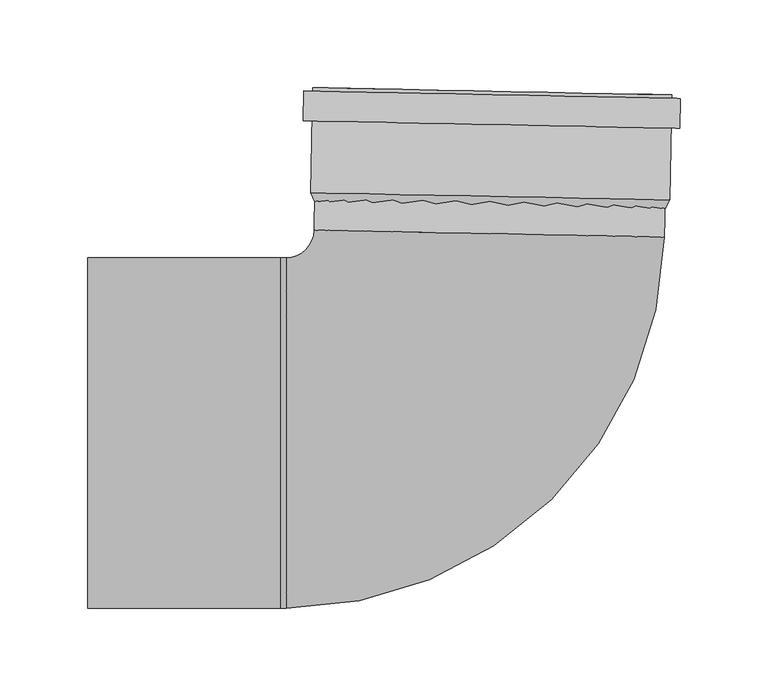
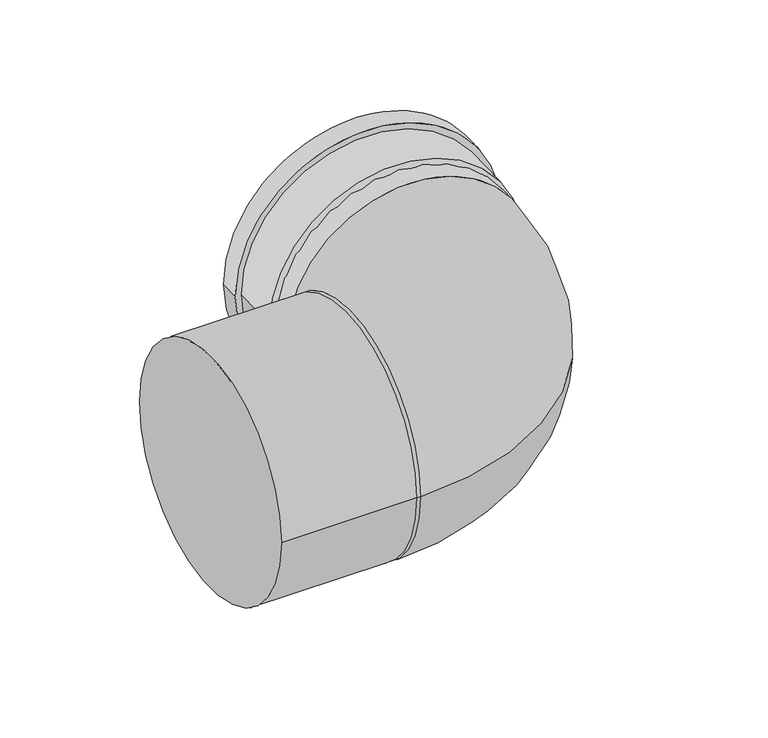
"""IFC4 building model written with IfcOpenShell, lengths in millimetres: duct fitting geometry, RSFen_DUF_UN_Twinline Bend_M&G : ø130 - 150 - 200."""

import ifcopenshell
import ifcopenshell.guid

model = None  # the IFC model being written
_history = None  # IfcOwnerHistory: only IFC2X3 demands one
_inside = {}  # id of a spatial element -> (the spatial element, [elements in it])
_under = {}  # id of a project, library or spatial element -> (it, [spatial elements below it])
_declared = {}  # id of a project -> (the project, [libraries it declares])
_typed = {}  # id of a type object -> (the type object, [elements of that type])
_made_of = {}  # id of a material, layer set ... -> (it, [elements and type objects made of it])


def new_model(schema):
    """Start an empty IFC model of exactly this schema.

    Asked for "IFC4X3", IfcOpenShell would pick the latest addendum, in which some entities
    have other attributes; the version numbers below select the first issue.
    IFC2X3 requires an IfcOwnerHistory on every rooted entity: one is made here for all.
    """
    global model, _history
    if schema == "IFC4X3":
        model = ifcopenshell.file(schema_version=(4, 3, 0, 0))
    else:
        model = ifcopenshell.file(schema=schema)
    _inside.clear()
    _under.clear()
    _declared.clear()
    _typed.clear()
    _made_of.clear()
    _history = None
    if model.schema == "IFC2X3":
        org = make("IfcOrganization", Name="unknown")
        user = make(
            "IfcPersonAndOrganization",
            ThePerson=make("IfcPerson", FamilyName="unknown"),
            TheOrganization=org,
        )
        app = make(
            "IfcApplication",
            ApplicationDeveloper=org,
            Version="unknown",
            ApplicationFullName="unknown",
            ApplicationIdentifier="unknown",
        )
        _history = make(
            "IfcOwnerHistory",
            OwningUser=user,
            OwningApplication=app,
            ChangeAction="ADDED",
            CreationDate=0,
        )
    return model


def make(cls, **values):
    """One entity of the class cls with the attributes given. An attribute that is None is left unset."""
    return model.create_entity(
        cls, **{name: value for name, value in values.items() if value is not None}
    )


def rooted(cls, **values):
    """An entity with a GlobalId (a new one), such as an element, a storey or a relation."""
    return make(cls, GlobalId=ifcopenshell.guid.new(), OwnerHistory=_history, **values)


def si_unit(unit_type, name, prefix=None):
    """IfcSIUnit, for example si_unit("LENGTHUNIT", "METRE", prefix="MILLI")."""
    return make("IfcSIUnit", UnitType=unit_type, Prefix=prefix, Name=name)


def assignment(units):
    """IfcUnitAssignment: the units of a project."""
    return None if units is None else make("IfcUnitAssignment", Units=units)


def point(xyz):
    """IfcCartesianPoint."""
    return None if xyz is None else make("IfcCartesianPoint", Coordinates=xyz)


def direction(xyz):
    """IfcDirection."""
    return None if xyz is None else make("IfcDirection", DirectionRatios=xyz)


def frame(location, z_axis=None, x_axis=None):
    """IfcAxis2Placement3D, a coordinate frame: its origin and axes. An axis left out is left unset."""
    return make(
        "IfcAxis2Placement3D",
        Location=point(location),
        Axis=direction(z_axis),
        RefDirection=direction(x_axis),
    )


def frame_2d(location, x_axis=None):
    """IfcAxis2Placement2D, a coordinate frame in the plane: its origin and x axis."""
    return make(
        "IfcAxis2Placement2D", Location=point(location), RefDirection=direction(x_axis)
    )


def origin():
    """The frame at (0, 0, 0) with its axes left unset."""
    return frame((0.0, 0.0, 0.0))


def origin_2d():
    """The frame at (0, 0) in the plane with its x axis left unset."""
    return frame_2d((0.0, 0.0))


def place(relative_to, where):
    """IfcLocalPlacement: puts the frame where relative to a parent placement (None: the world)."""
    return make(
        "IfcLocalPlacement", PlacementRelTo=relative_to, RelativePlacement=where
    )


def context(
    kind, dimensions, precision=None, world=None, true_north=None, identifier=None
):
    """IfcGeometricRepresentationContext, for example the 3D "Model" context."""
    return make(
        "IfcGeometricRepresentationContext",
        ContextIdentifier=identifier,
        ContextType=kind,
        CoordinateSpaceDimension=dimensions,
        Precision=precision,
        WorldCoordinateSystem=world,
        TrueNorth=true_north,
    )


def project(units=None, contexts=None):
    """IfcProject with its units and contexts."""
    return rooted(
        "IfcProject",
        Name="project",
        RepresentationContexts=contexts,
        UnitsInContext=assignment(units),
    )


def spatial(cls, under=None, at=None, **own):
    """A site, building, storey or space (cls), placed at a placement, below another one or the project."""
    s = rooted(cls, ObjectPlacement=at, **own)
    if under is not None:
        _under.setdefault(under.id(), (under, []))[1].append(s)
    return s


def polyline(points):
    """IfcPolyline through the points."""
    return make("IfcPolyline", Points=[point(p) for p in points])


def circle_curve(where, radius):
    """IfcCircle in the frame where."""
    return make("IfcCircle", Position=where, Radius=radius)


def ellipse_curve(where, semi_axis1, semi_axis2):
    """IfcEllipse in the frame where."""
    return make(
        "IfcEllipse", Position=where, SemiAxis1=semi_axis1, SemiAxis2=semi_axis2
    )


def trimmed(basis, trim1, trim2, sense, master):
    """IfcTrimmedCurve: the piece of a basis curve between two trims."""
    return make(
        "IfcTrimmedCurve",
        BasisCurve=basis,
        Trim1=trim1,
        Trim2=trim2,
        SenseAgreement=sense,
        MasterRepresentation=master,
    )


def segment(curve, same_sense, transition):
    """IfcCompositeCurveSegment."""
    return make(
        "IfcCompositeCurveSegment",
        Transition=transition,
        SameSense=same_sense,
        ParentCurve=curve,
    )


def composite_curve(segments, self_intersect=None):
    """IfcCompositeCurve: segments joined end to end."""
    return make("IfcCompositeCurve", Segments=segments, SelfIntersect=self_intersect)


def outline(outer, holes=None, kind="AREA"):
    """IfcArbitraryClosedProfileDef: a profile drawn as a closed curve; with holes, ...WithVoids."""
    if holes is None:
        return make("IfcArbitraryClosedProfileDef", ProfileType=kind, OuterCurve=outer)
    return make(
        "IfcArbitraryProfileDefWithVoids",
        ProfileType=kind,
        OuterCurve=outer,
        InnerCurves=holes,
    )


def extrude(swept, where, along, depth):
    """IfcExtrudedAreaSolid: the profile swept, set in the frame where, extruded along a direction by depth."""
    return make(
        "IfcExtrudedAreaSolid",
        SweptArea=swept,
        Position=where,
        ExtrudedDirection=direction(along),
        Depth=depth,
    )


def shape(context_of_items, identifier, shape_type, items):
    """IfcShapeRepresentation: the items that make up one representation, for example the "Body"."""
    return make(
        "IfcShapeRepresentation",
        ContextOfItems=context_of_items,
        RepresentationIdentifier=identifier,
        RepresentationType=shape_type,
        Items=items,
    )


def source(mapping_origin, context_of_items, identifier, shape_type, items):
    """IfcRepresentationMap: a shape defined once, which mapped items show again and again."""
    return make(
        "IfcRepresentationMap",
        MappingOrigin=mapping_origin,
        MappedRepresentation=shape(context_of_items, identifier, shape_type, items),
    )


def transform(
    local_origin,
    x_axis=None,
    y_axis=None,
    z_axis=None,
    scale=None,
    scale2=None,
    scale3=None,
    uniform=True,
):
    """IfcCartesianTransformationOperator3D, or its non-uniform kind. x_axis, y_axis, z_axis: its Axis1, 2, 3."""
    if uniform:
        return make(
            "IfcCartesianTransformationOperator3D",
            Axis1=direction(x_axis),
            Axis2=direction(y_axis),
            LocalOrigin=point(local_origin),
            Scale=scale,
            Axis3=direction(z_axis),
        )
    return make(
        "IfcCartesianTransformationOperator3DnonUniform",
        Axis1=direction(x_axis),
        Axis2=direction(y_axis),
        LocalOrigin=point(local_origin),
        Scale=scale,
        Axis3=direction(z_axis),
        Scale2=scale2,
        Scale3=scale3,
    )


def mapped(mapping_source, mapping_target):
    """IfcMappedItem: shows the shape of a source again, moved by a transform."""
    return make(
        "IfcMappedItem", MappingSource=mapping_source, MappingTarget=mapping_target
    )


def made_of(thing, what):
    """Note that an element or type object is made of a material, layer set ...; save() writes the relation."""
    if what is not None:
        _made_of.setdefault(what.id(), (what, []))[1].append(thing)
    return thing


def element(
    cls,
    number,
    at=None,
    inside=None,
    cuts=None,
    type_object=None,
    material=None,
    context=None,
    identifier="Body",
    shape_type=None,
    held_by="IfcProductDefinitionShape",
    body=None,
    shapes=None,
    **own,
):
    """One element of the class cls, such as IfcWall. Its Tag is "e" and its number.

    at: its placement. inside: the storey or other place that contains it. cuts: it is an
    opening in that element (IfcRelVoidsElement). A single representation is given by context,
    identifier, shape_type and body (its items); several are given by shapes. held_by: the class
    of the entity that holds the representations. save() writes the other relations.
    """
    e = rooted(cls, Tag="e%d" % number, ObjectPlacement=at, **own)
    if body is not None:
        shapes = [shape(context, identifier, shape_type, body)]
    if shapes is not None:
        e.Representation = make(held_by, Representations=shapes)
    if inside is not None:
        _inside.setdefault(inside.id(), (inside, []))[1].append(e)
    if cuts is not None:
        rooted(
            "IfcRelVoidsElement", RelatingBuildingElement=cuts, RelatedOpeningElement=e
        )
    if type_object is not None:
        _typed.setdefault(type_object.id(), (type_object, []))[1].append(e)
    return made_of(e, material)


def aggregate(whole, parts):
    """IfcRelAggregates: a whole, such as a stair, and the parts it consists of."""
    return rooted("IfcRelAggregates", RelatingObject=whole, RelatedObjects=parts)


def save(model, path):
    """Write the relations noted so far, then the file.

    IfcRelAggregates (storeys below a building ...), IfcRelContainedInSpatialStructure (elements
    in a storey), IfcRelDefinesByType, IfcRelAssociatesMaterial and IfcRelDeclares: one each for
    every whole, place, type object, material and project.
    """
    for whole, parts in _under.values():
        aggregate(whole, parts)
    for where, things in _inside.values():
        rooted(
            "IfcRelContainedInSpatialStructure",
            RelatedElements=things,
            RelatingStructure=where,
        )
    for kind, things in _typed.values():
        rooted("IfcRelDefinesByType", RelatedObjects=things, RelatingType=kind)
    for what, things in _made_of.values():
        rooted("IfcRelAssociatesMaterial", RelatedObjects=things, RelatingMaterial=what)
    for by, libraries in _declared.values():
        rooted("IfcRelDeclares", RelatingContext=by, RelatedDefinitions=libraries)
    model.write(path)


def plane_surface(at):
    """IfcPlane: the flat surface through the origin of the frame at, square to its z axis."""
    return make("IfcPlane", Position=at)


def cylinder_surface(at, radius):
    """IfcCylindricalSurface: all points at the distance radius from the z axis of the frame at."""
    return make("IfcCylindricalSurface", Position=at, Radius=radius)


def revolved_surface(curve, axis_point, axis_direction):
    """IfcSurfaceOfRevolution: the curve turned about the line through axis_point along axis_direction."""
    return make(
        "IfcSurfaceOfRevolution",
        SweptCurve=make("IfcArbitraryOpenProfileDef", ProfileType="CURVE", Curve=curve),
        AxisPosition=make("IfcAxis1Placement", Location=point(axis_point), Axis=direction(axis_direction)),
    )


def advanced_brep(points, edges, surfaces, faces):
    """IfcAdvancedBrep: a solid bounded by faces that lie on surfaces and meet in shared edges.

    An edge is (start, end): straight between two places in points (the first is 0);
    or (start, end, curve); or (start, end, curve, False) where it runs against its curve.
    A face is (place in surfaces, loops), or (place, loops, False) where it looks against
    its surface's normal. A loop lists edges by number (the first is 1), with a minus sign
    where the edge is run from its end to its start. The first loop is the outer one.
    """
    corners = [point(p) for p in points]
    vertices = [make("IfcVertexPoint", VertexGeometry=c) for c in corners]
    made = []
    for start, end, *more in edges:
        made.append(
            make(
                "IfcEdgeCurve",
                EdgeStart=vertices[start],
                EdgeEnd=vertices[end],
                EdgeGeometry=more[0] if more else make("IfcPolyline", Points=[corners[start], corners[end]]),
                SameSense=more[1] if len(more) > 1 else True,
            )
        )
    hull = []
    for where, loops, *sense in faces:
        bounds = []
        for j, loop in enumerate(loops):
            ring = [make("IfcOrientedEdge", EdgeElement=made[abs(k) - 1], Orientation=k > 0) for k in loop]
            bounds.append(
                make(
                    "IfcFaceOuterBound" if j == 0 else "IfcFaceBound",
                    Bound=make("IfcEdgeLoop", EdgeList=ring),
                    Orientation=True,
                )
            )
        hull.append(make("IfcAdvancedFace", Bounds=bounds, FaceSurface=surfaces[where], SameSense=sense[0] if sense else True))
    return make("IfcAdvancedBrep", Outer=make("IfcClosedShell", CfsFaces=hull))


def duct_fitting_2b33db09(model_context):
    return source(origin(), model_context, "Body", "SolidModel", [
        advanced_brep(
        [(-227.0, 100.0, 0.0), (-227.0, -100.0, 0.0), (-117.0, 100.0, 0.0), (-117.0, -100.0, 0.0), (-113.6947877, -100.0, 0.0), (-113.6947877, 100.0, 0.0), (102.2617053, 111.6648932, 0.0), (-97.6980104, 115.678881, 0.0), (102.6892996, 132.9658142, 0.0), (2.7094417, 134.9728081, 100.0), (-97.2704161, 136.979802, 0.0), (2.7094417, 134.9728081, -100.0), (2.7495816, 136.9724053, -100.0), (2.7495816, 136.9724053, 100.0)],
        [
            (0, 1, circle_curve(frame((-227.0, 0.0, 0.0), z_axis=(-1.0, 0.0, 0.0), x_axis=(0.0, -1.0, 0.0)), 100.0)),
            (1, 0, circle_curve(frame((-227.0, 0.0, 0.0), z_axis=(-1.0, 0.0, 0.0), x_axis=(0.0, -1.0, 0.0)), 100.0)),
            (0, 2),
            (2, 3, circle_curve(frame((-117.0, 0.0, 0.0), z_axis=(-1.0, 0.0, 0.0), x_axis=(0.0, -1.0, 0.0)), 100.0)),
            (3, 1),
            (3, 2, circle_curve(frame((-117.0, 0.0, 0.0), z_axis=(-1.0, 0.0, 0.0), x_axis=(0.0, -1.0, 0.0)), 100.0)),
            (3, 4),
            (4, 5, circle_curve(frame((-113.6947877, 0.0, 0.0), z_axis=(-1.0, 0.0, 0.0), x_axis=(0.0, 1.0, 0.0)), 100.0)),
            (5, 2),
            (5, 4, circle_curve(frame((-113.6947877, 0.0, 0.0), z_axis=(-1.0, 0.0, 0.0), x_axis=(0.0, 1.0, 0.0)), 100.0)),
            (4, 6, circle_curve(frame((-113.6947877, 116.0, 0.0), z_axis=(0.0, 0.0, 1.0), x_axis=(0.0, -1.0, 0.0)), 216.0)),
            (6, 7, circle_curve(frame((2.2818474, 113.6718871, 0.0), z_axis=(-0.020069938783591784, -0.9997985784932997, 0.0), x_axis=(-0.9997985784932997, 0.020069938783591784, 0.0)), 100.0)),
            (7, 5, circle_curve(frame((-113.6947877, 116.0, 0.0), z_axis=(0.0, 0.0, -1.0), x_axis=(0.0, -1.0, 0.0)), 16.0)),
            (7, 6, circle_curve(frame((2.2818474, 113.6718871, 0.0), z_axis=(-0.020069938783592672, -0.9997985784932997, 0.0), x_axis=(-0.9997985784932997, 0.020069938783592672, 0.0)), 100.0)),
            (6, 8),
            (8, 9, circle_curve(frame((2.7094417, 134.9728081, 0.0), z_axis=(-0.02006993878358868, -0.9997985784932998, 0.0), x_axis=(-0.9997985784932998, 0.02006993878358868, 0.0)), 100.0)),
            (9, 10, circle_curve(frame((2.7094417, 134.9728081, 0.0), z_axis=(-0.02006993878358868, -0.9997985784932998, 0.0), x_axis=(-0.9997985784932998, 0.02006993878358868, 0.0)), 100.0)),
            (10, 7),
            (10, 11, circle_curve(frame((2.7094417, 134.9728081, 0.0), z_axis=(-0.02006993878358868, -0.9997985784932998, 0.0), x_axis=(-0.9997985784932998, 0.02006993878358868, 0.0)), 100.0)),
            (11, 8, circle_curve(frame((2.7094417, 134.9728081, 0.0), z_axis=(-0.02006993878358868, -0.9997985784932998, 0.0), x_axis=(-0.9997985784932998, 0.02006993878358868, 0.0)), 100.0)),
            (12, 13, circle_curve(frame((2.7495816, 136.9724053, 0.0), z_axis=(0.020069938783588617, 0.9997985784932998, 0.0), x_axis=(0.0, 0.0, 1.0)), 100.0)),
            (13, 12, circle_curve(frame((2.7495816, 136.9724053, 0.0), z_axis=(0.020069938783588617, 0.9997985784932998, 0.0), x_axis=(0.0, 0.0, 1.0)), 100.0)),
            (12, 11),
            (9, 13),
        ],
        [
            plane_surface(frame((-227.0, -100.0, 0.0), z_axis=(-1.0, 0.0, 0.0), x_axis=(0.0, 0.0, 1.0))),
            cylinder_surface(frame((-117.0, 0.0, 0.0), z_axis=(-1.0, 0.0, 0.0), x_axis=(0.0, -1.0, 0.0)), 100.0),
            cylinder_surface(frame((-117.0, 0.0, 0.0), z_axis=(-1.0, 0.0, 0.0), x_axis=(0.0, 1.0, 0.0)), 100.0),
            revolved_surface(trimmed(ellipse_curve(frame((-113.6947877, 0.0, 0.0), z_axis=(-1.0, 0.0, 0.0), x_axis=(0.0, 1.0, 0.0)), 100.0, 100.0), [point((-113.6947877, -100.0, 0.0))], [point((-113.6947877, 100.0, 0.0))], True, "CARTESIAN"), (-113.6947877, 116.0, 0.0), (0.0, 0.0, 1.0)),
            revolved_surface(trimmed(ellipse_curve(frame((-113.6947877, 0.0, 0.0), z_axis=(-1.0, 0.0, 0.0), x_axis=(0.0, 1.0, 0.0)), 100.0, 100.0), [point((-113.6947877, 100.0, 0.0))], [point((-113.6947877, -100.0, 0.0))], True, "CARTESIAN"), (-113.6947877, 116.0, 0.0), (0.0, 0.0, 1.0)),
            cylinder_surface(frame((2.2818474, 113.6718871, 0.0), z_axis=(-0.02006993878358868, -0.9997985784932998, 0.0), x_axis=(-0.9997985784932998, 0.02006993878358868, 0.0)), 100.0),
            plane_surface(frame((2.7495816, 136.9724053, 100.0), z_axis=(0.020069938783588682, 0.9997985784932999, 0.0), x_axis=(0.9997985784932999, -0.020069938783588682, 0.0))),
            cylinder_surface(frame((2.7094417, 134.9728081, 0.0), z_axis=(0.020069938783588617, 0.9997985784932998, 0.0), x_axis=(0.0, 0.0, 1.0)), 100.0),
        ],
        [
            (0, [[1, 2]]),
            (1, [[-1, 3, 4, 5]]),
            (1, [[-2, -5, 6, -3]]),
            (2, [[7, 8, 9, -6]]),
            (2, [[-7, -4, -9, 10]]),
            (3, [[-8, 11, 12, 13]]),
            (4, [[-10, -13, 14, -11]]),
            (5, [[-12, 15, 16, 17, 18]]),
            (5, [[-14, -18, 19, 20, -15]]),
            (6, [[21, 22]]),
            (7, [[-21, 23, -19, -17, 24]]),
            (7, [[-22, -24, -16, -20, -23]]),
        ],
    ),
        extrude(outline(composite_curve([segment(trimmed(circle_curve(origin_2d(), 107.5), [point((107.5, 0.0))], [point((-107.5, 0.0))], False, "CARTESIAN"), True, "CONTINUOUS"), segment(trimmed(circle_curve(origin_2d(), 107.5), [point((-107.5, 0.0))], [point((107.5, 0.0))], False, "CARTESIAN"), True, "CONTINUOUS")], self_intersect=False), holes=[composite_curve([segment(trimmed(circle_curve(origin_2d(), 102.5), [point((-102.5, 0.0))], [point((102.5, 0.0))], True, "CARTESIAN"), True, "CONTINUOUS"), segment(trimmed(circle_curve(origin_2d(), 102.5), [point((102.5, 0.0))], [point((-102.5, 0.0))], True, "CARTESIAN"), True, "CONTINUOUS")], self_intersect=False)]), frame((3.5323092, 175.9645498, 0.0), z_axis=(0.02006993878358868, 0.9997985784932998, 0.0), x_axis=(0.9997985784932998, -0.02006993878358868, 0.0)), (0.0, 0.0, 1.0), 17.0),
        advanced_brep(
        [(-99.7699126, 137.0299768, 0.0), (105.188796, 132.9156394, 0.0), (106.3929924, 192.9035541, 0.0), (-98.5657162, 197.0178915, 0.0), (-97.3707658, 131.9808091, 0.0), (102.5889499, 127.9668213, 0.0), (-96.0662198, 196.9677167, 0.0), (103.8934959, 192.9537289, 0.0)],
        [
            (0, 1, circle_curve(frame((2.7094417, 134.9728081, 0.0), z_axis=(0.02006993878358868, 0.9997985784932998, 0.0), x_axis=(0.9997985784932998, -0.02006993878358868, 0.0)), 102.5)),
            (1, 2),
            (2, 3, circle_curve(frame((3.9136381, 194.9607228, 0.0), z_axis=(-0.02006993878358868, -0.9997985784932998, 0.0), x_axis=(0.9997985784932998, -0.02006993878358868, 0.0)), 102.5)),
            (3, 0),
            (4, 5, circle_curve(frame((2.609092, 129.9738152, 0.0), z_axis=(0.02006993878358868, 0.9997985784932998, 0.0), x_axis=(0.9997985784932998, -0.02006993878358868, 0.0)), 100.0)),
            (5, 1),
            (0, 4),
            (6, 7, circle_curve(frame((3.9136381, 194.9607228, 0.0), z_axis=(0.02006993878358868, 0.9997985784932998, 0.0), x_axis=(0.9997985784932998, -0.02006993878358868, 0.0)), 100.0)),
            (7, 5),
            (4, 6),
            (2, 3, circle_curve(frame((3.9136381, 194.9607228, 0.0), z_axis=(0.02006993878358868, 0.9997985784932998, 0.0), x_axis=(-0.9997985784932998, 0.02006993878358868, 0.0)), 102.5)),
            (6, 7, circle_curve(frame((3.9136381, 194.9607228, 0.0), z_axis=(-0.02006993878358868, -0.9997985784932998, 0.0), x_axis=(-0.9997985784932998, 0.02006993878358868, 0.0)), 100.0)),
            (1, 0, circle_curve(frame((2.7094417, 134.9728081, 0.0), z_axis=(0.02006993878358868, 0.9997985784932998, 0.0), x_axis=(-0.9997985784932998, 0.02006993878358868, 0.0)), 102.5)),
            (5, 4, circle_curve(frame((2.609092, 129.9738152, 0.0), z_axis=(0.02006993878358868, 0.9997985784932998, 0.0), x_axis=(-0.9997985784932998, 0.02006993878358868, 0.0)), 100.0)),
        ],
        [
            cylinder_surface(frame((2.7094417, 134.9728081, 0.0), z_axis=(-0.02006993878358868, -0.9997985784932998, 0.0), x_axis=(0.9997985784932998, -0.02006993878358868, 0.0)), 102.5),
            revolved_surface(polyline([(105.188796, 132.9156394, 0.0), (102.5889499, 127.9668213, 0.0)]), (2.7094417, 134.9728081, 0.0), (-0.02006993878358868, -0.9997985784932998, 0.0)),
            revolved_surface(polyline([(102.58894985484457, 127.96682130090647, 0.0), (103.89349587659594, 192.9537289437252, 0.0)]), (2.7094417, 134.9728081, 0.0), (-0.02006993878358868, -0.9997985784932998, 0.0)),
            plane_surface(frame((3.9136381, 194.9607228, 0.0), z_axis=(0.02006993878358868, 0.9997985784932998, 0.0), x_axis=(-0.9997985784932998, 0.02006993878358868, 0.0))),
            cylinder_surface(frame((2.7094417, 134.9728081, 0.0), z_axis=(-0.02006993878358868, -0.9997985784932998, 0.0), x_axis=(-0.9997985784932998, 0.02006993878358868, 0.0)), 102.5),
            revolved_surface(polyline([(-99.7699126, 137.0299768, 0.0), (-97.3707658, 131.9808091, 0.0)]), (2.7094417, 134.9728081, 0.0), (-0.02006993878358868, -0.9997985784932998, 0.0)),
            revolved_surface(polyline([(-97.37076584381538, 131.98080905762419, 0.0), (-96.06621982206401, 196.9677167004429, 0.0)]), (2.7094417, 134.9728081, 0.0), (-0.02006993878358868, -0.9997985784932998, 0.0)),
        ],
        [
            (0, [[1, 2, 3, 4]]),
            (1, [[5, 6, -1, 7]]),
            (2, [[8, 9, -5, 10]]),
            (3, [[11, -3], [12, -8]]),
            (4, [[13, -4, -11, -2]]),
            (5, [[14, -7, -13, -6]]),
            (6, [[-12, -10, -14, -9]]),
        ],
    ),
    ])


if __name__ == "__main__":
    model = new_model("IFC4")
    model_context = context("Model", 3, world=origin())
    ifc_project = project(units=[si_unit("LENGTHUNIT", "METRE", prefix="MILLI")], contexts=[model_context])
    site = spatial("IfcSite", under=ifc_project)
    building = spatial("IfcBuilding", under=site)
    placement = place(None, origin())
    duct_fitting_shape = duct_fitting_2b33db09(model_context)
    element("IfcDuctFitting", 1, ObjectType="RSFen_DUF_UN_Twinline Bend_M&G : ø130 - 150 - 200", at=placement, inside=building, context=model_context, shape_type="MappedRepresentation", body=[
        mapped(duct_fitting_shape, transform((0.0, 0.0, 0.0), x_axis=(1.0, 0.0, 0.0), y_axis=(0.0, 1.0, 0.0), z_axis=(0.0, 0.0, 1.0))),
    ])
    save(model, "model.ifc")
